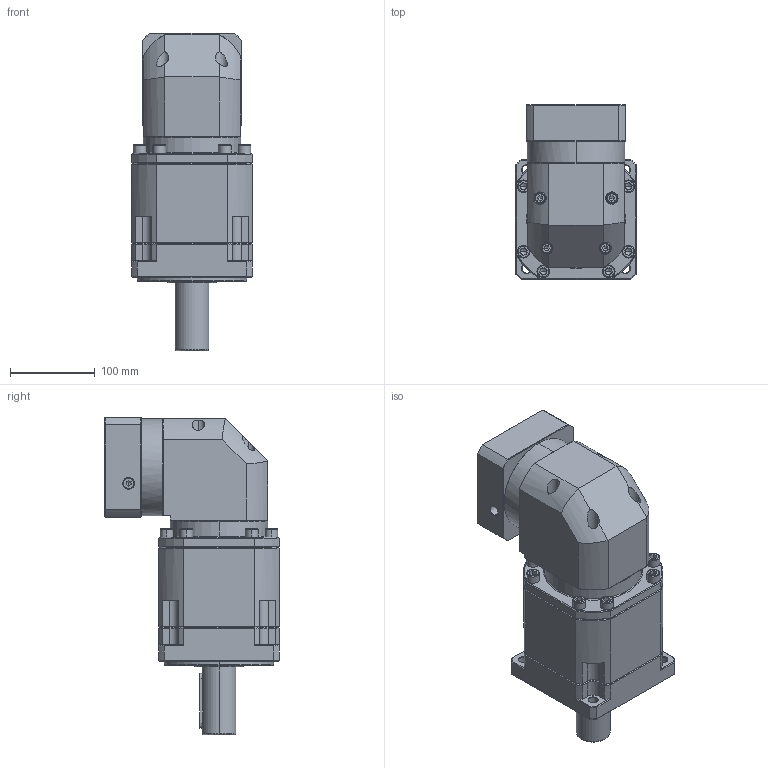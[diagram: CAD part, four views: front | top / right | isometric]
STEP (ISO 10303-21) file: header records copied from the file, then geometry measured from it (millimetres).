
FILE_DESCRIPTION (( 'STEP AP214' ), '1' );
FILE_NAME ('ZBR142A-D40-L3-P2-22-95-115-M8.step', '2023-09-02T08:11:11', ( '' ), ( '' ), 'SwSTEP 2.0', 'SolidWorks 2016', '' );
FILE_SCHEMA (( 'AUTOMOTIVE_DESIGN' ));
Length unit declared in the file: millimetre
Products named in the file (1): ZBR142A-D40-L3-P2-22-95-115-M8
Bounding box: 142 x 205.9 x 375.2 mm (x, y, z)
Volume: 5144700 mm3; surface area: 336903.2 mm2
Topology: 6 solids, 6 shells, 2590 faces, 6731 edges, 4267 vertices
Faces by surface type: plane 1232, cylinder 502, bspline 411, cone 399, torus 46
Entity records: 137022 total; most frequent: CARTESIAN_POINT 48573, ORIENTED_EDGE 13354, DIRECTION 10924, EDGE_CURVE 6677, VECTOR 4274, LINE 4274, VERTEX_POINT 4267, AXIS2_PLACEMENT_3D 3325
